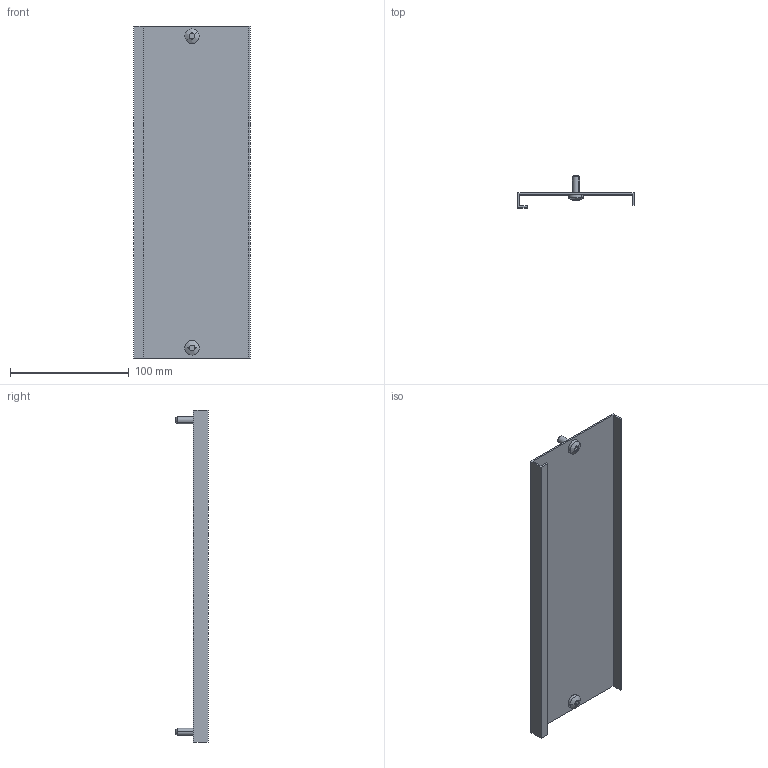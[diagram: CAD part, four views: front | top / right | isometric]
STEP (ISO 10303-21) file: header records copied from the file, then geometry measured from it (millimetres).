
FILE_DESCRIPTION (( 'STEP AP214' ), '1' );
FILE_NAME ('FO-00-PVS-010-040 Ïëàñòðîí ãëóõîé âíóòðåííèé 100õ400.STEP', '2025-09-29T19:54:36', ( '' ), ( '' ), 'SwSTEP 2.0', 'SolidWorks 2023', '' );
FILE_SCHEMA (( 'AUTOMOTIVE_DESIGN' ));
Length unit declared in the file: millimetre
Products named in the file (3): FO-00-PVS-010-040 Пластрон глухой внутренний 100х400; Винт М6х16 IEK
Assembly tree (3 placements, depth 2):
  FO-00-PVS-010-040 Пластрон глухой внутренний 100х400
    FO-00-PVS-010-040 Пластрон глухой внутренний 100х400
    Винт М6х16 IEK  x2
Bounding box: 98 x 27 x 279 mm (x, y, z)
Volume: 53316.3 mm3; surface area: 71592.2 mm2
Topology: 3 solids, 3 shells, 86 faces, 226 edges, 148 vertices
Faces by surface type: cylinder 44, plane 32, cone 6, bspline 4
Entity records: 2002 total; most frequent: CARTESIAN_POINT 426, ORIENTED_EDGE 316, DIRECTION 308, EDGE_CURVE 158, VERTEX_POINT 104, AXIS2_PLACEMENT_3D 104, VECTOR 100, LINE 100
